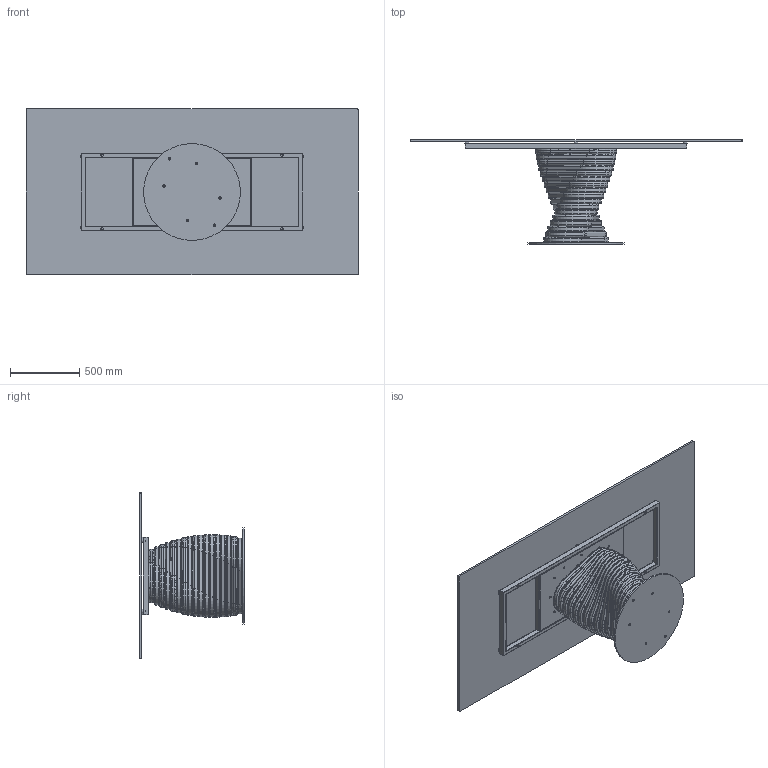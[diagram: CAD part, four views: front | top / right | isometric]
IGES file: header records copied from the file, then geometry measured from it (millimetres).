
Start section: SolidWorks IGES file using analytic representation for surfaces
Global section: file name: Y:\eforma\TECNICO\SOLIDWORKS\E-FORMA\1-TAVOLI\ROTOLO\02 parts\RO23G.IGS; native system: SolidWorks 2022; preprocessor: SolidWorks 2022; author: eforma.tech; date: 240807.154003; units: millimetre
Bounding box: 2400 x 757 x 1200 mm (x, y, z)
Volume: 56397328.2 mm3; surface area: 13721580.1 mm2
Topology: 98 solids, 98 shells, 1496 faces, 3548 edges, 2222 vertices
Faces by surface type: revolution 878, plane 618
